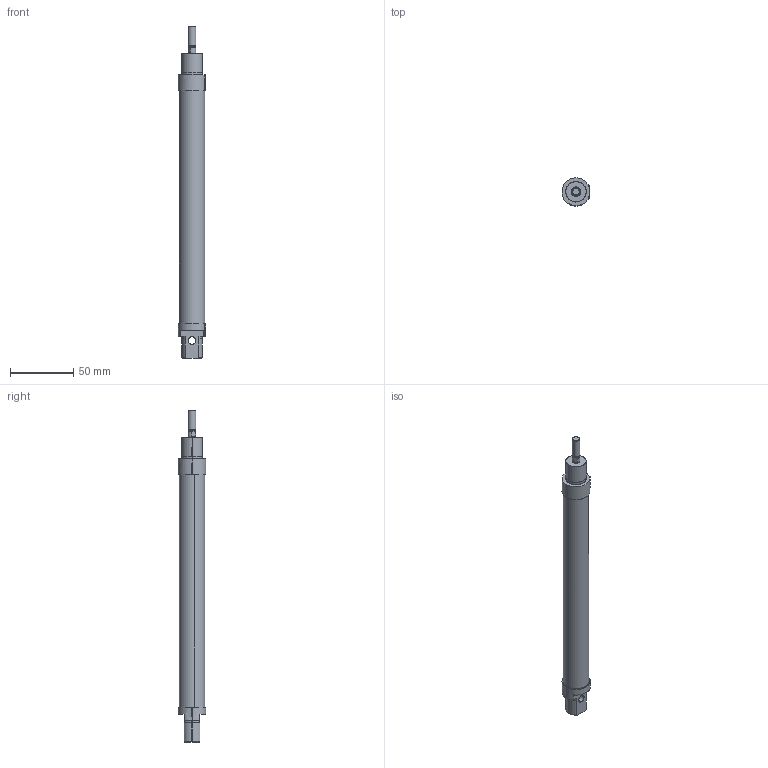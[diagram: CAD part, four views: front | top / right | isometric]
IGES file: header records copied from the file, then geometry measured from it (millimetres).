
Start section: SolidWorks IGES file using analytic representation for surfaces
Global section: file name: D:\ARICA 3D ÇÝZÝMLER\3D IGES\MAL-S\MAL6432S-16\MAL6432S-16x150-CYLINDER.IGS; native system: SolidWorks 2013; preprocessor: SolidWorks 2013; author: user; date: 150922.142329; units: millimetre
Bounding box: 22 x 22 x 261.5 mm (x, y, z)
Surface area: 34100.3 mm2 (no closed solid volume)
Topology: 0 solids, 0 shells, 142 faces, 2453 edges, 2451 vertices
Faces by surface type: revolution 97, bspline 45
